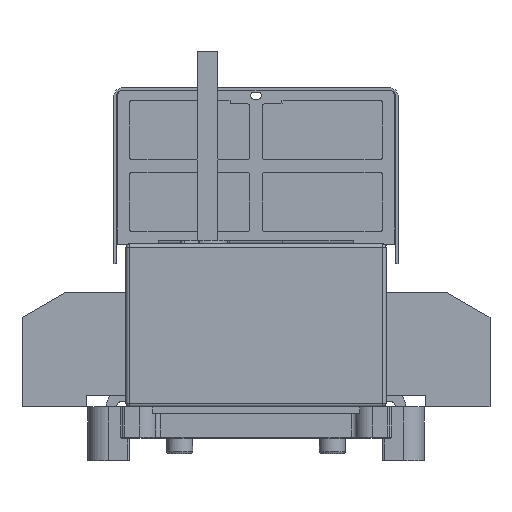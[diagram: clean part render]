
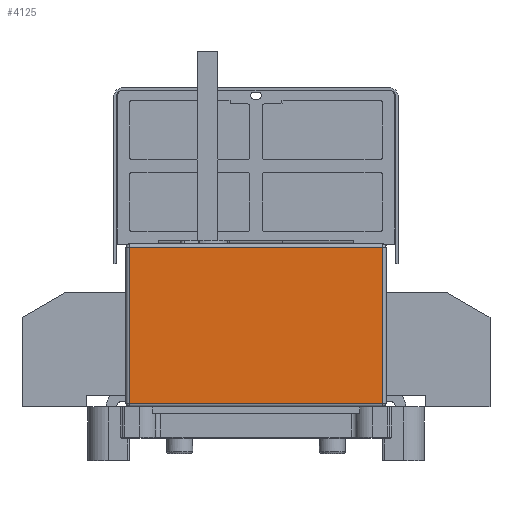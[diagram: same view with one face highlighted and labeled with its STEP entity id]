
A CAD part, left-side view. The second image highlights one B-rep face of the part: STEP entity #4125.
In plain terms, the highlighted planar face has unit normal (-1, 0, 0).
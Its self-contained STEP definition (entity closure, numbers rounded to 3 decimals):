
#4125=ADVANCED_FACE('',(#6742),#5201,.F.);
#5201=PLANE('',#34625);
#6742=FACE_OUTER_BOUND('',#8709,.T.);
#8709=EDGE_LOOP('',(#16776,#16777,#16778,#16779));
#16776=ORIENTED_EDGE('',*,*,#25325,.T.);
#16777=ORIENTED_EDGE('',*,*,#25307,.T.);
#16778=ORIENTED_EDGE('',*,*,#25318,.T.);
#16779=ORIENTED_EDGE('',*,*,#25296,.T.);
#20893=VERTEX_POINT('',#55691);
#20897=VERTEX_POINT('',#55702);
#20902=VERTEX_POINT('',#55719);
#20903=VERTEX_POINT('',#55723);
#25296=EDGE_CURVE('',#20897,#20893,#28554,.T.);
#25307=EDGE_CURVE('',#20903,#20902,#28559,.T.);
#25318=EDGE_CURVE('',#20902,#20897,#28562,.T.);
#25325=EDGE_CURVE('',#20893,#20903,#28569,.T.);
#28554=LINE('',#55705,#31754);
#28559=LINE('',#55726,#31759);
#28562=LINE('',#55749,#31762);
#28569=LINE('',#55759,#31769);
#31754=VECTOR('',#43215,1.);
#31759=VECTOR('',#43240,1.);
#31762=VECTOR('',#43269,1.);
#31769=VECTOR('',#43282,1.);
#34625=AXIS2_PLACEMENT_3D('',#55762,#43287,#43288);
#43215=DIRECTION('',(0.,1.,0.));
#43240=DIRECTION('',(0.,-1.,0.));
#43269=DIRECTION('',(0.,0.,1.));
#43282=DIRECTION('',(0.,0.,-1.));
#43287=DIRECTION('',(1.,0.,0.));
#43288=DIRECTION('',(0.,1.,0.));
#55691=CARTESIAN_POINT('',(-150.,73.,92.));
#55702=CARTESIAN_POINT('',(-150.,-73.,92.));
#55705=CARTESIAN_POINT('',(-150.,73.,92.));
#55719=CARTESIAN_POINT('',(-150.,-73.,2.));
#55723=CARTESIAN_POINT('',(-150.,73.,2.));
#55726=CARTESIAN_POINT('',(-150.,75.,2.));
#55749=CARTESIAN_POINT('',(-150.,-73.,94.));
#55759=CARTESIAN_POINT('',(-150.,73.,94.));
#55762=CARTESIAN_POINT('',(-150.,75.,94.));
